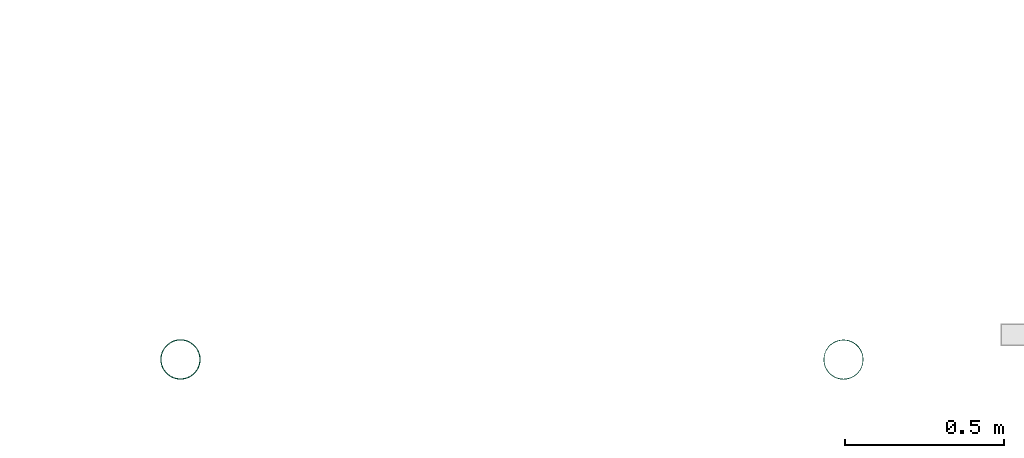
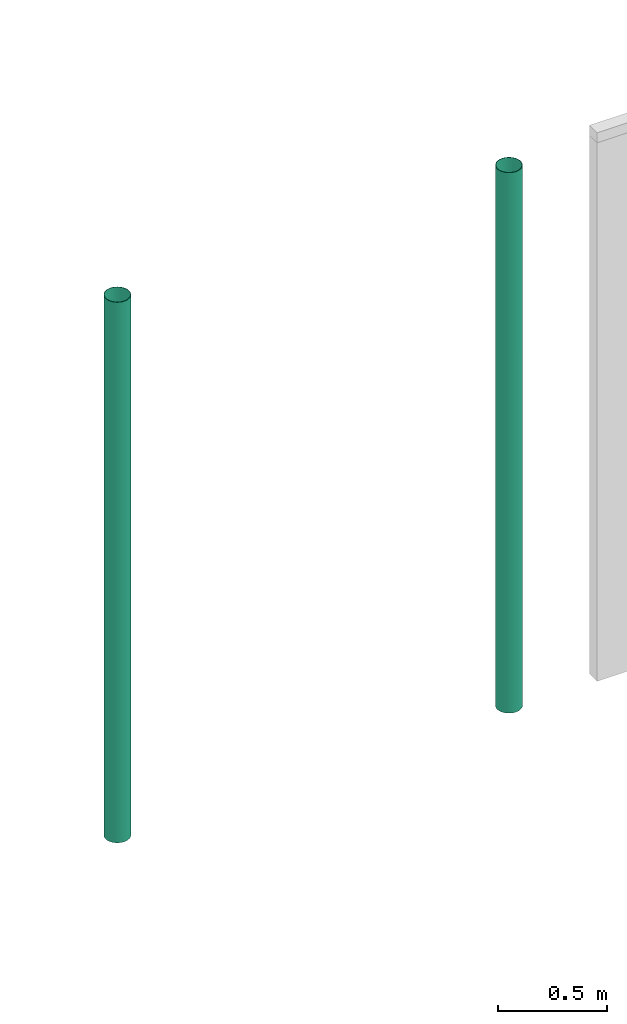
# One storey, part 6 of 7: 2 flow segments.
"""IFC2X3 building model written with IfcOpenShell, lengths in millimetres."""

from ifc_helpers import new_model, entity, si_unit, converted_unit, derived_unit, direction, frame, place, context, subcontext, project, spatial, faceted_brep, type_object, element, save


model = new_model("IFC2X3")

# Units and contexts
model_context = context("Model", 3, precision=0.01, world=frame((0.0, 4.29681676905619e-09, 0.0)), true_north=direction((4.01073788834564e-13, 1.0)))
plan_context = context("Plan", 3, precision=0.01, world=frame((0.0, 4.29681676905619e-09, 0.0)), true_north=direction((4.01073788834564e-13, 1.0)))
body_context = subcontext(model_context, "Body", "Model", "MODEL_VIEW")
ifc_project = project(units=[converted_unit("PLANEANGLEUNIT", "DEGREE", entity("IfcPositiveLengthMeasure", 0.0174532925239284), si_unit("PLANEANGLEUNIT", "RADIAN"), dimensions=[0, 0, 0, 0, 0, 0, 0]), si_unit("AREAUNIT", "SQUARE_METRE"), si_unit("LENGTHUNIT", "METRE", prefix="MILLI"), si_unit("MASSUNIT", "GRAM", prefix="KILO"), si_unit("POWERUNIT", "WATT"), si_unit("PRESSUREUNIT", "PASCAL"), si_unit("FORCEUNIT", "NEWTON", prefix="KILO"), si_unit("ELECTRICVOLTAGEUNIT", "VOLT"), si_unit("ELECTRICCURRENTUNIT", "AMPERE"), si_unit("THERMODYNAMICTEMPERATUREUNIT", "DEGREE_CELSIUS"), si_unit("TIMEUNIT", "SECOND"), si_unit("VOLUMEUNIT", "CUBIC_METRE"), derived_unit("LINEARVELOCITYUNIT", [(si_unit("LENGTHUNIT", "METRE"), 1), (si_unit("TIMEUNIT", "SECOND"), -1)]), derived_unit("VOLUMETRICFLOWRATEUNIT", [(si_unit("VOLUMEUNIT", "CUBIC_METRE"), 1), (si_unit("TIMEUNIT", "SECOND"), -1)]), derived_unit("THERMALTRANSMITTANCEUNIT", [(si_unit("POWERUNIT", "WATT"), 1), (si_unit("THERMODYNAMICTEMPERATUREUNIT", "KELVIN"), -1), (si_unit("AREAUNIT", "SQUARE_METRE"), -1)]), derived_unit("SOUNDPRESSUREUNIT", [(si_unit("PRESSUREUNIT", "PASCAL"), 1)])], contexts=[model_context, plan_context])

# Site, building, storey
site_placement = place(None, frame((0.0, -4.29681676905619e-09, 0.0), z_axis=(0.0, 0.0, 1.0), x_axis=(1.0, 0.0, 0.0)))
site = spatial("IfcSite", under=ifc_project, at=site_placement, CompositionType="ELEMENT")
building_placement = place(site_placement, frame((0.0, 4.29681676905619e-09, 0.0), z_axis=(0.0, 0.0, 1.0), x_axis=(1.0, 0.0, 0.0)))
building = spatial("IfcBuilding", under=site, at=building_placement, Name="mc-building", CompositionType="ELEMENT")
storey_placement = place(building_placement, frame((0.0, 0.0, 207370.0), z_axis=(0.0, 0.0, 1.0), x_axis=(1.0, 0.0, 0.0)))
storey = spatial("IfcBuildingStorey", under=building, at=storey_placement, Name="Nivå E", CompositionType="ELEMENT", Elevation=207370.0)

# Flow segments
duct_segment_type = type_object("IfcDuctSegmentType", Name="Sirkulær kanal", PredefinedType="RIGIDSEGMENT")
flow_segment_1_placement = place(storey_placement, frame((533512.4833, 440892.94927, 1675.0), z_axis=(0.999999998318, 1.15805285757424e-23, 5.79999999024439e-05), x_axis=(-5.7999998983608e-05, -0.000177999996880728, 0.999999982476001)))
element("IfcFlowSegment", 1, at=flow_segment_1_placement, inside=storey, type_object=duct_segment_type, Name="Sirkulær kanal", context=body_context, shape_type="Brep", body=[
    faceted_brep([(855.0, 59.5808690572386, -10.5057147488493), (855.0, 60.5, 0.0), (3893.0, 60.5, 0.0), (3893.0, 59.5808690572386, -10.5057147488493), (855.0, 56.8514035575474, -20.692218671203), (3893.0, 56.8514035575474, -20.692218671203), (855.0, 52.3945369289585, -30.25), (3893.0, 52.3945369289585, -30.25), (855.0, 46.3456888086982, -38.8886503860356), (3893.0, 46.3456888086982, -38.8886503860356), (855.0, 38.8886503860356, -46.3456888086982), (3893.0, 38.8886503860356, -46.3456888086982), (855.0, 30.25, -52.3945369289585), (3893.0, 30.25, -52.3945369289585), (855.0, 20.6922186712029, -56.8514035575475), (3893.0, 20.6922186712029, -56.8514035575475), (855.0, 10.5057147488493, -59.5808690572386), (3893.0, 10.5057147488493, -59.5808690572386), (855.0, -1.11136697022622e-14, -60.5), (3893.0, -1.11136697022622e-14, -60.5), (855.0, -10.5057147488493, -59.5808690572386), (3893.0, -10.5057147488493, -59.5808690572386), (855.0, -20.692218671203, -56.8514035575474), (3893.0, -20.692218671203, -56.8514035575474), (855.0, -30.25, -52.3945369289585), (3893.0, -30.25, -52.3945369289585), (855.0, -38.8886503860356, -46.3456888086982), (3893.0, -38.8886503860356, -46.3456888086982), (855.0, -46.3456888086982, -38.8886503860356), (3893.0, -46.3456888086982, -38.8886503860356), (855.0, -52.3945369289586, -30.25), (3893.0, -52.3945369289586, -30.25), (855.0, -56.8514035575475, -20.692218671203), (3893.0, -56.8514035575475, -20.692218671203), (855.0, -59.5808690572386, -10.5057147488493), (3893.0, -59.5808690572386, -10.5057147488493), (855.0, -60.5, 7.40911313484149e-15), (3893.0, -60.5, 7.40911313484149e-15), (855.0, -59.5808690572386, 10.5057147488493), (3893.0, -59.5808690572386, 10.5057147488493), (855.0, -56.8514035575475, 20.692218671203), (3893.0, -56.8514035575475, 20.692218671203), (855.0, -52.3945369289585, 30.25), (3893.0, -52.3945369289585, 30.25), (855.0, -46.3456888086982, 38.8886503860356), (3893.0, -46.3456888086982, 38.8886503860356), (855.0, -38.8886503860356, 46.3456888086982), (3893.0, -38.8886503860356, 46.3456888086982), (855.0, -30.25, 52.3945369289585), (3893.0, -30.25, 52.3945369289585), (855.0, -20.692218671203, 56.8514035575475), (3893.0, -20.692218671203, 56.8514035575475), (855.0, -10.5057147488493, 59.5808690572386), (3893.0, -10.5057147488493, 59.5808690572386), (855.0, 3.70455656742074e-15, 60.5), (3893.0, 3.70455656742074e-15, 60.5), (855.0, 10.5057147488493, 59.5808690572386), (3893.0, 10.5057147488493, 59.5808690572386), (855.0, 20.692218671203, 56.8514035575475), (3893.0, 20.692218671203, 56.8514035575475), (855.0, 30.25, 52.3945369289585), (3893.0, 30.25, 52.3945369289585), (855.0, 38.8886503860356, 46.3456888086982), (3893.0, 38.8886503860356, 46.3456888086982), (855.0, 46.3456888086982, 38.8886503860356), (3893.0, 46.3456888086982, 38.8886503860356), (855.0, 52.3945369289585, 30.25), (3893.0, 52.3945369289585, 30.25), (855.0, 56.8514035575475, 20.692218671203), (3893.0, 56.8514035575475, 20.692218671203), (855.0, 59.5808690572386, 10.5057147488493), (3893.0, 59.5808690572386, 10.5057147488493), (855.0, 62.5, 0.0), (855.0, 61.550484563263, -10.8530111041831), (3893.0, 61.550484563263, -10.8530111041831), (3893.0, 62.5, 0.0), (855.0, 61.550484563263, 10.8530111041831), (3893.0, 61.550484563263, 10.8530111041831), (855.0, 58.7307887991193, 21.3762589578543), (3893.0, 58.7307887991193, 21.3762589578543), (855.0, 54.1265877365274, 31.25), (3893.0, 54.1265877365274, 31.25), (855.0, 47.8777776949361, 40.1742256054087), (3893.0, 47.8777776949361, 40.1742256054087), (855.0, 40.1742256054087, 47.8777776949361), (3893.0, 40.1742256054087, 47.8777776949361), (855.0, 31.25, 54.1265877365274), (3893.0, 31.25, 54.1265877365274), (855.0, 21.3762589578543, 58.7307887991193), (3893.0, 21.3762589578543, 58.7307887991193), (855.0, 10.8530111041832, 61.550484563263), (3893.0, 10.8530111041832, 61.550484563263), (855.0, 3.82702124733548e-15, 62.5), (3893.0, 3.82702124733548e-15, 62.5), (855.0, -10.8530111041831, 61.550484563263), (3893.0, -10.8530111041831, 61.550484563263), (855.0, -21.3762589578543, 58.7307887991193), (3893.0, -21.3762589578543, 58.7307887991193), (855.0, -31.25, 54.1265877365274), (3893.0, -31.25, 54.1265877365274), (855.0, -40.1742256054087, 47.8777776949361), (3893.0, -40.1742256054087, 47.8777776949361), (855.0, -47.8777776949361, 40.1742256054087), (3893.0, -47.8777776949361, 40.1742256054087), (855.0, -54.1265877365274, 31.25), (3893.0, -54.1265877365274, 31.25), (855.0, -58.7307887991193, 21.3762589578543), (3893.0, -58.7307887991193, 21.3762589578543), (855.0, -61.550484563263, 10.8530111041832), (3893.0, -61.550484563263, 10.8530111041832), (855.0, -62.5, 7.65404249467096e-15), (3893.0, -62.5, 7.65404249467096e-15), (855.0, -61.550484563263, -10.8530111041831), (3893.0, -61.550484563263, -10.8530111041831), (855.0, -58.7307887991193, -21.3762589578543), (3893.0, -58.7307887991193, -21.3762589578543), (855.0, -54.1265877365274, -31.25), (3893.0, -54.1265877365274, -31.25), (855.0, -47.8777776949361, -40.1742256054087), (3893.0, -47.8777776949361, -40.1742256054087), (855.0, -40.1742256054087, -47.8777776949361), (3893.0, -40.1742256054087, -47.8777776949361), (855.0, -31.25, -54.1265877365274), (3893.0, -31.25, -54.1265877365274), (855.0, -21.3762589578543, -58.7307887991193), (3893.0, -21.3762589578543, -58.7307887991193), (855.0, -10.8530111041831, -61.550484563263), (3893.0, -10.8530111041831, -61.550484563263), (855.0, -1.14810637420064e-14, -62.5), (3893.0, -1.14810637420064e-14, -62.5), (855.0, 10.8530111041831, -61.550484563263), (3893.0, 10.8530111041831, -61.550484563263), (855.0, 21.3762589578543, -58.7307887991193), (3893.0, 21.3762589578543, -58.7307887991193), (855.0, 31.25, -54.1265877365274), (3893.0, 31.25, -54.1265877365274), (855.0, 40.1742256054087, -47.8777776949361), (3893.0, 40.1742256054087, -47.8777776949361), (855.0, 47.8777776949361, -40.1742256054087), (3893.0, 47.8777776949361, -40.1742256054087), (855.0, 54.1265877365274, -31.25), (3893.0, 54.1265877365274, -31.25), (855.0, 58.7307887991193, -21.3762589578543), (3893.0, 58.7307887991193, -21.3762589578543)], [[[0, 1, 2, 3]], [[4, 0, 3, 5]], [[6, 4, 5, 7]], [[8, 6, 7, 9]], [[10, 8, 9, 11]], [[12, 10, 11, 13]], [[14, 12, 13, 15]], [[16, 14, 15, 17]], [[18, 16, 17, 19]], [[20, 18, 19, 21]], [[22, 20, 21, 23]], [[24, 22, 23, 25]], [[26, 24, 25, 27]], [[28, 26, 27, 29]], [[30, 28, 29, 31]], [[32, 30, 31, 33]], [[34, 32, 33, 35]], [[36, 34, 35, 37]], [[38, 36, 37, 39]], [[40, 38, 39, 41]], [[42, 40, 41, 43]], [[44, 42, 43, 45]], [[46, 44, 45, 47]], [[48, 46, 47, 49]], [[50, 48, 49, 51]], [[52, 50, 51, 53]], [[54, 52, 53, 55]], [[56, 54, 55, 57]], [[58, 56, 57, 59]], [[60, 58, 59, 61]], [[62, 60, 61, 63]], [[64, 62, 63, 65]], [[66, 64, 65, 67]], [[68, 66, 67, 69]], [[70, 68, 69, 71]], [[1, 70, 71, 2]], [[72, 73, 74, 75]], [[76, 72, 75, 77]], [[78, 76, 77, 79]], [[80, 78, 79, 81]], [[82, 80, 81, 83]], [[84, 82, 83, 85]], [[86, 84, 85, 87]], [[88, 86, 87, 89]], [[90, 88, 89, 91]], [[92, 90, 91, 93]], [[94, 92, 93, 95]], [[96, 94, 95, 97]], [[98, 96, 97, 99]], [[100, 98, 99, 101]], [[102, 100, 101, 103]], [[104, 102, 103, 105]], [[106, 104, 105, 107]], [[108, 106, 107, 109]], [[110, 108, 109, 111]], [[112, 110, 111, 113]], [[114, 112, 113, 115]], [[116, 114, 115, 117]], [[118, 116, 117, 119]], [[120, 118, 119, 121]], [[122, 120, 121, 123]], [[124, 122, 123, 125]], [[126, 124, 125, 127]], [[128, 126, 127, 129]], [[130, 128, 129, 131]], [[132, 130, 131, 133]], [[134, 132, 133, 135]], [[136, 134, 135, 137]], [[138, 136, 137, 139]], [[140, 138, 139, 141]], [[142, 140, 141, 143]], [[73, 142, 143, 74]], [[75, 74, 143, 141, 139, 137, 135, 133, 131, 129, 127, 125, 123, 121, 119, 117, 115, 113, 111, 109, 107, 105, 103, 101, 99, 97, 95, 93, 91, 89, 87, 85, 83, 81, 79, 77], [2, 71, 69, 67, 65, 63, 61, 59, 57, 55, 53, 51, 49, 47, 45, 43, 41, 39, 37, 35, 33, 31, 29, 27, 25, 23, 21, 19, 17, 15, 13, 11, 9, 7, 5, 3]], [[76, 78, 80, 82, 84, 86, 88, 90, 92, 94, 96, 98, 100, 102, 104, 106, 108, 110, 112, 114, 116, 118, 120, 122, 124, 126, 128, 130, 132, 134, 136, 138, 140, 142, 73, 72], [4, 6, 8, 10, 12, 14, 16, 18, 20, 22, 24, 26, 28, 30, 32, 34, 36, 38, 40, 42, 44, 46, 48, 50, 52, 54, 56, 58, 60, 62, 64, 66, 68, 70, 1, 0]]], orient=[[False], [False], [False], [False], [False], [False], [False], [False], [False], [False], [False], [False], [False], [False], [False], [False], [False], [False], [False], [False], [False], [False], [False], [False], [False], [False], [False], [False], [False], [False], [False], [False], [False], [False], [False], [False], [False], [False], [False], [False], [False], [False], [False], [False], [False], [False], [False], [False], [False], [False], [False], [False], [False], [False], [False], [False], [False], [False], [False], [False], [False], [False], [False], [False], [False], [False], [False], [False], [False], [False], [False], [False], [False, False], [False, False]]),
])
flow_segment_2_placement = place(storey_placement, frame((531430.70917, 440892.96265, 1675.0), z_axis=(0.0, -1.0, 0.0), x_axis=(0.0, 0.0, 1.0)))
element("IfcFlowSegment", 2, at=flow_segment_2_placement, inside=storey, type_object=duct_segment_type, Name="Sirkulær kanal", context=body_context, shape_type="Brep", body=[
    faceted_brep([(855.0, 59.5808690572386, -10.5057147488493), (855.0, 60.5, 0.0), (3893.0, 60.5, 0.0), (3893.0, 59.5808690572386, -10.5057147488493), (855.0, 56.8514035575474, -20.692218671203), (3893.0, 56.8514035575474, -20.692218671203), (855.0, 52.3945369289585, -30.25), (3893.0, 52.3945369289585, -30.25), (855.0, 46.3456888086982, -38.8886503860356), (3893.0, 46.3456888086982, -38.8886503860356), (855.0, 38.8886503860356, -46.3456888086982), (3893.0, 38.8886503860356, -46.3456888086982), (855.0, 30.25, -52.3945369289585), (3893.0, 30.25, -52.3945369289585), (855.0, 20.6922186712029, -56.8514035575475), (3893.0, 20.6922186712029, -56.8514035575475), (855.0, 10.5057147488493, -59.5808690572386), (3893.0, 10.5057147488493, -59.5808690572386), (855.0, -1.11136697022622e-14, -60.5), (3893.0, -1.11136697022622e-14, -60.5), (855.0, -10.5057147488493, -59.5808690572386), (3893.0, -10.5057147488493, -59.5808690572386), (855.0, -20.692218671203, -56.8514035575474), (3893.0, -20.692218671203, -56.8514035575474), (855.0, -30.25, -52.3945369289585), (3893.0, -30.25, -52.3945369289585), (855.0, -38.8886503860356, -46.3456888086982), (3893.0, -38.8886503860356, -46.3456888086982), (855.0, -46.3456888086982, -38.8886503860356), (3893.0, -46.3456888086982, -38.8886503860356), (855.0, -52.3945369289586, -30.25), (3893.0, -52.3945369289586, -30.25), (855.0, -56.8514035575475, -20.692218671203), (3893.0, -56.8514035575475, -20.692218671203), (855.0, -59.5808690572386, -10.5057147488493), (3893.0, -59.5808690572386, -10.5057147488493), (855.0, -60.5, 7.40911313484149e-15), (3893.0, -60.5, 7.40911313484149e-15), (855.0, -59.5808690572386, 10.5057147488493), (3893.0, -59.5808690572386, 10.5057147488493), (855.0, -56.8514035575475, 20.692218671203), (3893.0, -56.8514035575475, 20.692218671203), (855.0, -52.3945369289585, 30.25), (3893.0, -52.3945369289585, 30.25), (855.0, -46.3456888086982, 38.8886503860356), (3893.0, -46.3456888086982, 38.8886503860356), (855.0, -38.8886503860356, 46.3456888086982), (3893.0, -38.8886503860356, 46.3456888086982), (855.0, -30.25, 52.3945369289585), (3893.0, -30.25, 52.3945369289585), (855.0, -20.692218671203, 56.8514035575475), (3893.0, -20.692218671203, 56.8514035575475), (855.0, -10.5057147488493, 59.5808690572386), (3893.0, -10.5057147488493, 59.5808690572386), (855.0, 3.70455656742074e-15, 60.5), (3893.0, 3.70455656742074e-15, 60.5), (855.0, 10.5057147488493, 59.5808690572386), (3893.0, 10.5057147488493, 59.5808690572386), (855.0, 20.692218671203, 56.8514035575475), (3893.0, 20.692218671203, 56.8514035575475), (855.0, 30.25, 52.3945369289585), (3893.0, 30.25, 52.3945369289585), (855.0, 38.8886503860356, 46.3456888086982), (3893.0, 38.8886503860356, 46.3456888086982), (855.0, 46.3456888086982, 38.8886503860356), (3893.0, 46.3456888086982, 38.8886503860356), (855.0, 52.3945369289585, 30.25), (3893.0, 52.3945369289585, 30.25), (855.0, 56.8514035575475, 20.692218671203), (3893.0, 56.8514035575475, 20.692218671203), (855.0, 59.5808690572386, 10.5057147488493), (3893.0, 59.5808690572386, 10.5057147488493), (855.0, 62.5, 0.0), (855.0, 61.550484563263, -10.8530111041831), (3893.0, 61.550484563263, -10.8530111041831), (3893.0, 62.5, 0.0), (855.0, 61.550484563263, 10.8530111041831), (3893.0, 61.550484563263, 10.8530111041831), (855.0, 58.7307887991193, 21.3762589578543), (3893.0, 58.7307887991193, 21.3762589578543), (855.0, 54.1265877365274, 31.25), (3893.0, 54.1265877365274, 31.25), (855.0, 47.8777776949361, 40.1742256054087), (3893.0, 47.8777776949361, 40.1742256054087), (855.0, 40.1742256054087, 47.8777776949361), (3893.0, 40.1742256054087, 47.8777776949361), (855.0, 31.25, 54.1265877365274), (3893.0, 31.25, 54.1265877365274), (855.0, 21.3762589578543, 58.7307887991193), (3893.0, 21.3762589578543, 58.7307887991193), (855.0, 10.8530111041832, 61.550484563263), (3893.0, 10.8530111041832, 61.550484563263), (855.0, 3.82702124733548e-15, 62.5), (3893.0, 3.82702124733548e-15, 62.5), (855.0, -10.8530111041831, 61.550484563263), (3893.0, -10.8530111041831, 61.550484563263), (855.0, -21.3762589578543, 58.7307887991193), (3893.0, -21.3762589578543, 58.7307887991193), (855.0, -31.25, 54.1265877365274), (3893.0, -31.25, 54.1265877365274), (855.0, -40.1742256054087, 47.8777776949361), (3893.0, -40.1742256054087, 47.8777776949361), (855.0, -47.8777776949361, 40.1742256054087), (3893.0, -47.8777776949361, 40.1742256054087), (855.0, -54.1265877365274, 31.25), (3893.0, -54.1265877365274, 31.25), (855.0, -58.7307887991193, 21.3762589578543), (3893.0, -58.7307887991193, 21.3762589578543), (855.0, -61.550484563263, 10.8530111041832), (3893.0, -61.550484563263, 10.8530111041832), (855.0, -62.5, 7.65404249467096e-15), (3893.0, -62.5, 7.65404249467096e-15), (855.0, -61.550484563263, -10.8530111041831), (3893.0, -61.550484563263, -10.8530111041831), (855.0, -58.7307887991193, -21.3762589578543), (3893.0, -58.7307887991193, -21.3762589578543), (855.0, -54.1265877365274, -31.25), (3893.0, -54.1265877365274, -31.25), (855.0, -47.8777776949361, -40.1742256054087), (3893.0, -47.8777776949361, -40.1742256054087), (855.0, -40.1742256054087, -47.8777776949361), (3893.0, -40.1742256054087, -47.8777776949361), (855.0, -31.25, -54.1265877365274), (3893.0, -31.25, -54.1265877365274), (855.0, -21.3762589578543, -58.7307887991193), (3893.0, -21.3762589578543, -58.7307887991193), (855.0, -10.8530111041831, -61.550484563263), (3893.0, -10.8530111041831, -61.550484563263), (855.0, -1.14810637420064e-14, -62.5), (3893.0, -1.14810637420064e-14, -62.5), (855.0, 10.8530111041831, -61.550484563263), (3893.0, 10.8530111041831, -61.550484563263), (855.0, 21.3762589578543, -58.7307887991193), (3893.0, 21.3762589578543, -58.7307887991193), (855.0, 31.25, -54.1265877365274), (3893.0, 31.25, -54.1265877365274), (855.0, 40.1742256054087, -47.8777776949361), (3893.0, 40.1742256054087, -47.8777776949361), (855.0, 47.8777776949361, -40.1742256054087), (3893.0, 47.8777776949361, -40.1742256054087), (855.0, 54.1265877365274, -31.25), (3893.0, 54.1265877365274, -31.25), (855.0, 58.7307887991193, -21.3762589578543), (3893.0, 58.7307887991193, -21.3762589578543)], [[[0, 1, 2, 3]], [[4, 0, 3, 5]], [[6, 4, 5, 7]], [[8, 6, 7, 9]], [[10, 8, 9, 11]], [[12, 10, 11, 13]], [[14, 12, 13, 15]], [[16, 14, 15, 17]], [[18, 16, 17, 19]], [[20, 18, 19, 21]], [[22, 20, 21, 23]], [[24, 22, 23, 25]], [[26, 24, 25, 27]], [[28, 26, 27, 29]], [[30, 28, 29, 31]], [[32, 30, 31, 33]], [[34, 32, 33, 35]], [[36, 34, 35, 37]], [[38, 36, 37, 39]], [[40, 38, 39, 41]], [[42, 40, 41, 43]], [[44, 42, 43, 45]], [[46, 44, 45, 47]], [[48, 46, 47, 49]], [[50, 48, 49, 51]], [[52, 50, 51, 53]], [[54, 52, 53, 55]], [[56, 54, 55, 57]], [[58, 56, 57, 59]], [[60, 58, 59, 61]], [[62, 60, 61, 63]], [[64, 62, 63, 65]], [[66, 64, 65, 67]], [[68, 66, 67, 69]], [[70, 68, 69, 71]], [[1, 70, 71, 2]], [[72, 73, 74, 75]], [[76, 72, 75, 77]], [[78, 76, 77, 79]], [[80, 78, 79, 81]], [[82, 80, 81, 83]], [[84, 82, 83, 85]], [[86, 84, 85, 87]], [[88, 86, 87, 89]], [[90, 88, 89, 91]], [[92, 90, 91, 93]], [[94, 92, 93, 95]], [[96, 94, 95, 97]], [[98, 96, 97, 99]], [[100, 98, 99, 101]], [[102, 100, 101, 103]], [[104, 102, 103, 105]], [[106, 104, 105, 107]], [[108, 106, 107, 109]], [[110, 108, 109, 111]], [[112, 110, 111, 113]], [[114, 112, 113, 115]], [[116, 114, 115, 117]], [[118, 116, 117, 119]], [[120, 118, 119, 121]], [[122, 120, 121, 123]], [[124, 122, 123, 125]], [[126, 124, 125, 127]], [[128, 126, 127, 129]], [[130, 128, 129, 131]], [[132, 130, 131, 133]], [[134, 132, 133, 135]], [[136, 134, 135, 137]], [[138, 136, 137, 139]], [[140, 138, 139, 141]], [[142, 140, 141, 143]], [[73, 142, 143, 74]], [[75, 74, 143, 141, 139, 137, 135, 133, 131, 129, 127, 125, 123, 121, 119, 117, 115, 113, 111, 109, 107, 105, 103, 101, 99, 97, 95, 93, 91, 89, 87, 85, 83, 81, 79, 77], [2, 71, 69, 67, 65, 63, 61, 59, 57, 55, 53, 51, 49, 47, 45, 43, 41, 39, 37, 35, 33, 31, 29, 27, 25, 23, 21, 19, 17, 15, 13, 11, 9, 7, 5, 3]], [[76, 78, 80, 82, 84, 86, 88, 90, 92, 94, 96, 98, 100, 102, 104, 106, 108, 110, 112, 114, 116, 118, 120, 122, 124, 126, 128, 130, 132, 134, 136, 138, 140, 142, 73, 72], [4, 6, 8, 10, 12, 14, 16, 18, 20, 22, 24, 26, 28, 30, 32, 34, 36, 38, 40, 42, 44, 46, 48, 50, 52, 54, 56, 58, 60, 62, 64, 66, 68, 70, 1, 0]]], orient=[[False], [False], [False], [False], [False], [False], [False], [False], [False], [False], [False], [False], [False], [False], [False], [False], [False], [False], [False], [False], [False], [False], [False], [False], [False], [False], [False], [False], [False], [False], [False], [False], [False], [False], [False], [False], [False], [False], [False], [False], [False], [False], [False], [False], [False], [False], [False], [False], [False], [False], [False], [False], [False], [False], [False], [False], [False], [False], [False], [False], [False], [False], [False], [False], [False], [False], [False], [False], [False], [False], [False], [False], [False, False], [False, False]]),
])

save(model, "model.ifc")
